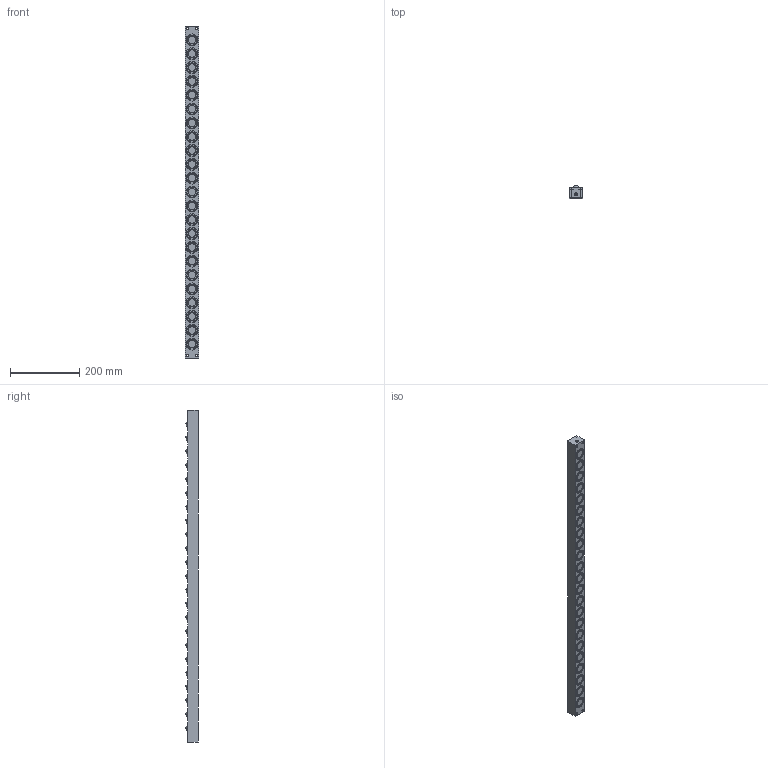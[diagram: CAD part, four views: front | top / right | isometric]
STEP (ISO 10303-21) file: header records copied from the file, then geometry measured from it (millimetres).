
FILE_DESCRIPTION (( 'STEP AP203' ), '1' );
FILE_NAME ('PVL30S-23.STEP', '2016-02-18T05:23:10', ( '' ), ( '' ), 'SwSTEP 2.0', 'SolidWorks 2013', '' );
FILE_SCHEMA (( 'CONFIG_CONTROL_DESIGN' ));
Length unit declared in the file: millimetre
Products named in the file (1): PVL30S-23
Bounding box: 38 x 36 x 960 mm (x, y, z)
Volume: 1113713.1 mm3; surface area: 172556.2 mm2
Topology: 1 solids, 1 shells, 746 faces, 1755 edges, 1176 vertices
Faces by surface type: cylinder 478, plane 218, sphere 46, cone 4
Entity records: 22124 total; most frequent: DIRECTION 4345, CARTESIAN_POINT 3676, ORIENTED_EDGE 3506, AXIS2_PLACEMENT_3D 1845, EDGE_CURVE 1753, VERTEX_POINT 1176, CIRCLE 1098, EDGE_LOOP 921
